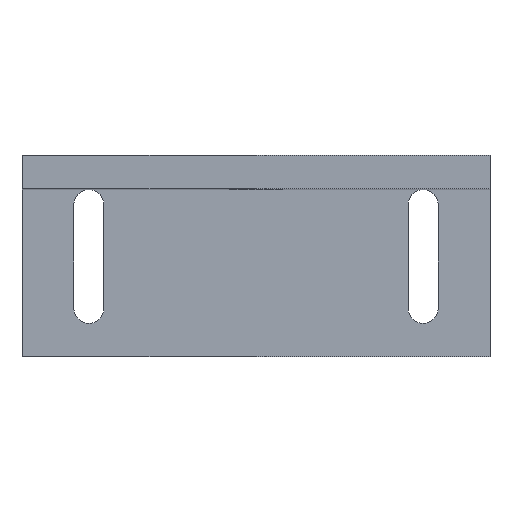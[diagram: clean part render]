
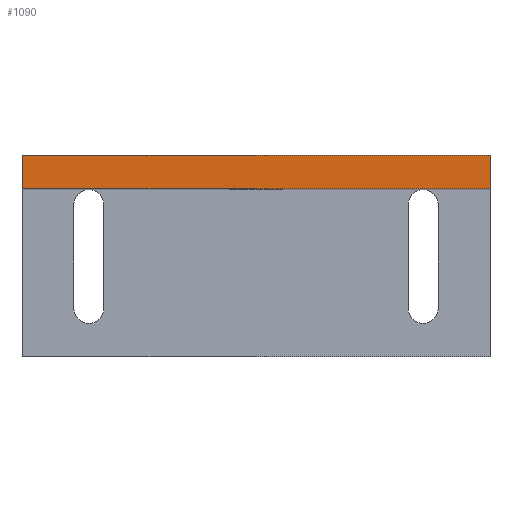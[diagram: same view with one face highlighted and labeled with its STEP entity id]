
A CAD part, top view. The second image highlights one B-rep face of the part: STEP entity #1090.
In plain terms, the highlighted planar face has unit normal (0, 0, 1).
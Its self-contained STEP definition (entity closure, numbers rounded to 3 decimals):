
#32 = PLANE('',#33);
#33 = AXIS2_PLACEMENT_3D('',#34,#35,#36);
#34 = CARTESIAN_POINT('',(-35.,-15.,0.));
#35 = DIRECTION('',(1.,0.,0.));
#36 = DIRECTION('',(0.,0.,1.));
#113 = VERTEX_POINT('',#114);
#114 = CARTESIAN_POINT('',(-35.,15.,90.));
#128 = PLANE('',#129);
#129 = AXIS2_PLACEMENT_3D('',#130,#131,#132);
#130 = CARTESIAN_POINT('',(-35.,15.,0.));
#131 = DIRECTION('',(0.,1.,0.));
#132 = DIRECTION('',(0.,0.,1.));
#140 = EDGE_CURVE('',#141,#113,#143,.T.);
#141 = VERTEX_POINT('',#142);
#142 = CARTESIAN_POINT('',(-35.,10.,90.));
#143 = SURFACE_CURVE('',#144,(#148,#155),.PCURVE_S1.);
#144 = LINE('',#145,#146);
#145 = CARTESIAN_POINT('',(-35.,10.,90.));
#146 = VECTOR('',#147,1.);
#147 = DIRECTION('',(0.,1.,0.));
#148 = PCURVE('',#32,#149);
#149 = DEFINITIONAL_REPRESENTATION('',(#150),#154);
#150 = LINE('',#151,#152);
#151 = CARTESIAN_POINT('',(90.,-25.));
#152 = VECTOR('',#153,1.);
#153 = DIRECTION('',(0.,-1.));
#154 = ( GEOMETRIC_REPRESENTATION_CONTEXT(2) 
PARAMETRIC_REPRESENTATION_CONTEXT() REPRESENTATION_CONTEXT('2D SPACE',''
  ) );
#155 = PCURVE('',#156,#161);
#156 = PLANE('',#157);
#157 = AXIS2_PLACEMENT_3D('',#158,#159,#160);
#158 = CARTESIAN_POINT('',(-35.,10.,90.));
#159 = DIRECTION('',(0.,0.,1.));
#160 = DIRECTION('',(1.,0.,0.));
#161 = DEFINITIONAL_REPRESENTATION('',(#162),#166);
#162 = LINE('',#163,#164);
#163 = CARTESIAN_POINT('',(0.,0.));
#164 = VECTOR('',#165,1.);
#165 = DIRECTION('',(0.,1.));
#166 = ( GEOMETRIC_REPRESENTATION_CONTEXT(2) 
PARAMETRIC_REPRESENTATION_CONTEXT() REPRESENTATION_CONTEXT('2D SPACE',''
  ) );
#182 = PLANE('',#183);
#183 = AXIS2_PLACEMENT_3D('',#184,#185,#186);
#184 = CARTESIAN_POINT('',(-35.,10.,0.));
#185 = DIRECTION('',(0.,1.,0.));
#186 = DIRECTION('',(0.,0.,1.));
#237 = PLANE('',#238);
#238 = AXIS2_PLACEMENT_3D('',#239,#240,#241);
#239 = CARTESIAN_POINT('',(35.,-15.,0.));
#240 = DIRECTION('',(1.,0.,0.));
#241 = DIRECTION('',(0.,0.,1.));
#931 = EDGE_CURVE('',#113,#932,#934,.T.);
#932 = VERTEX_POINT('',#933);
#933 = CARTESIAN_POINT('',(35.,15.,90.));
#934 = SURFACE_CURVE('',#935,(#939,#946),.PCURVE_S1.);
#935 = LINE('',#936,#937);
#936 = CARTESIAN_POINT('',(-35.,15.,90.));
#937 = VECTOR('',#938,1.);
#938 = DIRECTION('',(1.,0.,0.));
#939 = PCURVE('',#128,#940);
#940 = DEFINITIONAL_REPRESENTATION('',(#941),#945);
#941 = LINE('',#942,#943);
#942 = CARTESIAN_POINT('',(90.,0.));
#943 = VECTOR('',#944,1.);
#944 = DIRECTION('',(0.,1.));
#945 = ( GEOMETRIC_REPRESENTATION_CONTEXT(2) 
PARAMETRIC_REPRESENTATION_CONTEXT() REPRESENTATION_CONTEXT('2D SPACE',''
  ) );
#946 = PCURVE('',#156,#947);
#947 = DEFINITIONAL_REPRESENTATION('',(#948),#952);
#948 = LINE('',#949,#950);
#949 = CARTESIAN_POINT('',(0.,5.));
#950 = VECTOR('',#951,1.);
#951 = DIRECTION('',(1.,0.));
#952 = ( GEOMETRIC_REPRESENTATION_CONTEXT(2) 
PARAMETRIC_REPRESENTATION_CONTEXT() REPRESENTATION_CONTEXT('2D SPACE',''
  ) );
#1090 = ADVANCED_FACE('',(#1091),#156,.T.);
#1091 = FACE_BOUND('',#1092,.T.);
#1092 = EDGE_LOOP('',(#1093,#1094,#1117,#1138));
#1093 = ORIENTED_EDGE('',*,*,#140,.F.);
#1094 = ORIENTED_EDGE('',*,*,#1095,.T.);
#1095 = EDGE_CURVE('',#141,#1096,#1098,.T.);
#1096 = VERTEX_POINT('',#1097);
#1097 = CARTESIAN_POINT('',(35.,10.,90.));
#1098 = SURFACE_CURVE('',#1099,(#1103,#1110),.PCURVE_S1.);
#1099 = LINE('',#1100,#1101);
#1100 = CARTESIAN_POINT('',(-35.,10.,90.));
#1101 = VECTOR('',#1102,1.);
#1102 = DIRECTION('',(1.,0.,0.));
#1103 = PCURVE('',#156,#1104);
#1104 = DEFINITIONAL_REPRESENTATION('',(#1105),#1109);
#1105 = LINE('',#1106,#1107);
#1106 = CARTESIAN_POINT('',(0.,0.));
#1107 = VECTOR('',#1108,1.);
#1108 = DIRECTION('',(1.,0.));
#1109 = ( GEOMETRIC_REPRESENTATION_CONTEXT(2) 
PARAMETRIC_REPRESENTATION_CONTEXT() REPRESENTATION_CONTEXT('2D SPACE',''
  ) );
#1110 = PCURVE('',#182,#1111);
#1111 = DEFINITIONAL_REPRESENTATION('',(#1112),#1116);
#1112 = LINE('',#1113,#1114);
#1113 = CARTESIAN_POINT('',(90.,0.));
#1114 = VECTOR('',#1115,1.);
#1115 = DIRECTION('',(0.,1.));
#1116 = ( GEOMETRIC_REPRESENTATION_CONTEXT(2) 
PARAMETRIC_REPRESENTATION_CONTEXT() REPRESENTATION_CONTEXT('2D SPACE',''
  ) );
#1117 = ORIENTED_EDGE('',*,*,#1118,.T.);
#1118 = EDGE_CURVE('',#1096,#932,#1119,.T.);
#1119 = SURFACE_CURVE('',#1120,(#1124,#1131),.PCURVE_S1.);
#1120 = LINE('',#1121,#1122);
#1121 = CARTESIAN_POINT('',(35.,10.,90.));
#1122 = VECTOR('',#1123,1.);
#1123 = DIRECTION('',(0.,1.,0.));
#1124 = PCURVE('',#156,#1125);
#1125 = DEFINITIONAL_REPRESENTATION('',(#1126),#1130);
#1126 = LINE('',#1127,#1128);
#1127 = CARTESIAN_POINT('',(70.,0.));
#1128 = VECTOR('',#1129,1.);
#1129 = DIRECTION('',(0.,1.));
#1130 = ( GEOMETRIC_REPRESENTATION_CONTEXT(2) 
PARAMETRIC_REPRESENTATION_CONTEXT() REPRESENTATION_CONTEXT('2D SPACE',''
  ) );
#1131 = PCURVE('',#237,#1132);
#1132 = DEFINITIONAL_REPRESENTATION('',(#1133),#1137);
#1133 = LINE('',#1134,#1135);
#1134 = CARTESIAN_POINT('',(90.,-25.));
#1135 = VECTOR('',#1136,1.);
#1136 = DIRECTION('',(0.,-1.));
#1137 = ( GEOMETRIC_REPRESENTATION_CONTEXT(2) 
PARAMETRIC_REPRESENTATION_CONTEXT() REPRESENTATION_CONTEXT('2D SPACE',''
  ) );
#1138 = ORIENTED_EDGE('',*,*,#931,.F.);
